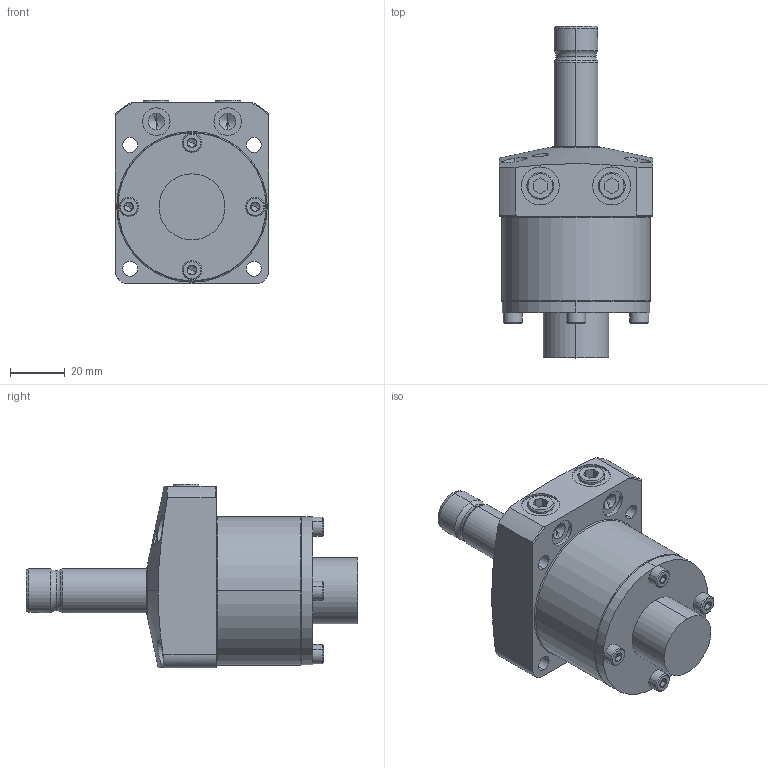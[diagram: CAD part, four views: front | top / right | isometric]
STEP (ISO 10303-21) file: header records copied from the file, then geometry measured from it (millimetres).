
FILE_DESCRIPTION (( 'STEP AP203' ), '1' );
FILE_NAME ('WHA0400-2GL-F.step', '2010-04-14T09:43:20', ( ' ' ), ( ' ' ), 'SwSTEP 2.0', 'SolidWorks 2009', '' );
FILE_SCHEMA (( 'CONFIG_CONTROL_DESIGN' ));
Length unit declared in the file: millimetre
Products named in the file (6): R1／8ﾌﾟﾗｸﾞ; WHA0400-2GL-F; WHA0400_槭暌溒3WH100007-00; WHA0400-F丒郫霓; WHA0400_楓羔絻3WH100010-00; 6妏寠晅无倌_M4_10
Assembly tree (9 placements, depth 2):
  WHA0400-2GL-F
    WHA0400_楓羔絻3WH100010-00
    WHA0400_槭暌溒3WH100007-00
    WHA0400-F丒郫霓
    6妏寠晅无倌_M4_10  x4
    R1／8ﾌﾟﾗｸﾞ  x2
Bounding box: 56 x 120.7 x 66.8 mm (x, y, z)
Volume: 176463.1 mm3; surface area: 33823.5 mm2
Topology: 9 solids, 9 shells, 302 faces, 622 edges, 354 vertices
Faces by surface type: plane 113, cylinder 97, cone 82, torus 10
Entity records: 6755 total; most frequent: CARTESIAN_POINT 1625, DIRECTION 991, ORIENTED_EDGE 848, EDGE_CURVE 424, AXIS2_PLACEMENT_3D 409, VERTEX_POINT 261, EDGE_LOOP 239, CIRCLE 201
